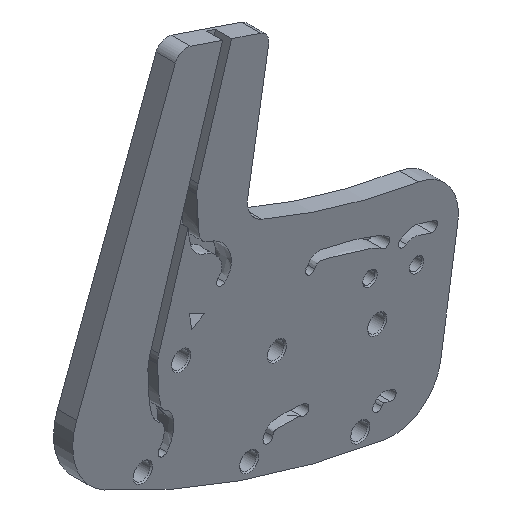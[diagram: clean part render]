
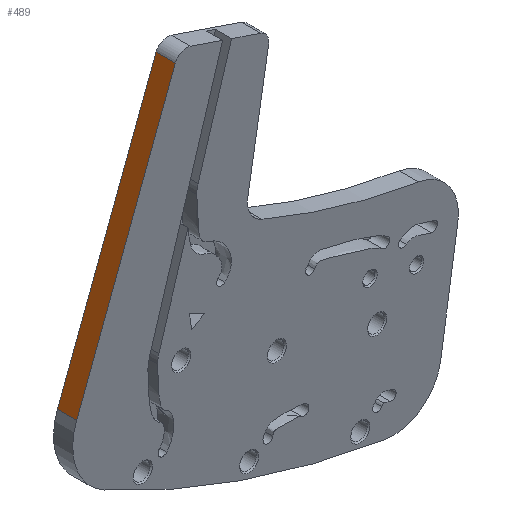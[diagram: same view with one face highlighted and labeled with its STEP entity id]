
A CAD part, isometric view. The second image highlights one B-rep face of the part: STEP entity #489.
In plain terms, the highlighted planar face has unit normal (-0.935, 0, 0.354).
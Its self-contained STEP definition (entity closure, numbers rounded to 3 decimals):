
#133=PLANE('',#5433);
#489=ADVANCED_FACE('',(#846),#133,.T.);
#846=FACE_OUTER_BOUND('',#1160,.T.);
#1160=EDGE_LOOP('',(#2297,#2298,#2299,#2300));
#2297=ORIENTED_EDGE('',*,*,#4161,.F.);
#2298=ORIENTED_EDGE('',*,*,#4244,.T.);
#2299=ORIENTED_EDGE('',*,*,#3965,.T.);
#2300=ORIENTED_EDGE('',*,*,#4245,.T.);
#3452=VERTEX_POINT('',#6819);
#3453=VERTEX_POINT('',#6821);
#3648=VERTEX_POINT('',#8065);
#3649=VERTEX_POINT('',#8067);
#3965=EDGE_CURVE('',#3453,#3452,#4692,.T.);
#4161=EDGE_CURVE('',#3648,#3649,#4697,.T.);
#4244=EDGE_CURVE('',#3648,#3453,#4733,.T.);
#4245=EDGE_CURVE('',#3452,#3649,#4734,.T.);
#4692=LINE('',#6820,#4953);
#4697=LINE('',#8066,#4958);
#4733=LINE('',#9044,#5002);
#4734=LINE('',#9045,#5003);
#4953=VECTOR('',#5723,1.);
#4958=VECTOR('',#5766,1.);
#5002=VECTOR('',#5892,1.);
#5003=VECTOR('',#5893,1.);
#5433=AXIS2_PLACEMENT_3D('',#9046,#5894,#5895);
#5723=DIRECTION('',(-0.354,0.,-0.935));
#5766=DIRECTION('',(-0.354,0.,-0.935));
#5892=DIRECTION('',(0.,1.,0.));
#5893=DIRECTION('',(0.,-1.,0.));
#5894=DIRECTION('',(-0.935,0.,0.354));
#5895=DIRECTION('',(-0.354,0.,-0.935));
#6819=CARTESIAN_POINT('',(41.452,-766.,-384.346));
#6820=CARTESIAN_POINT('',(84.173,-766.,-271.66));
#6821=CARTESIAN_POINT('',(82.462,-766.,-276.173));
#8065=CARTESIAN_POINT('',(82.462,-774.,-276.173));
#8066=CARTESIAN_POINT('',(84.173,-774.,-271.66));
#8067=CARTESIAN_POINT('',(41.452,-774.,-384.346));
#9044=CARTESIAN_POINT('',(82.462,-766.,-276.173));
#9045=CARTESIAN_POINT('',(41.452,-766.,-384.346));
#9046=CARTESIAN_POINT('',(84.173,-766.,-271.66));
